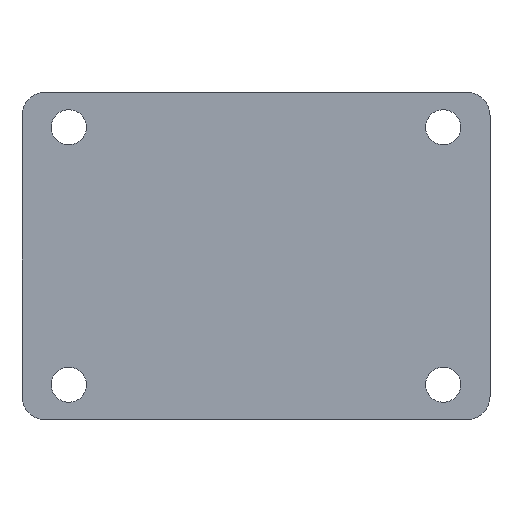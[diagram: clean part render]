
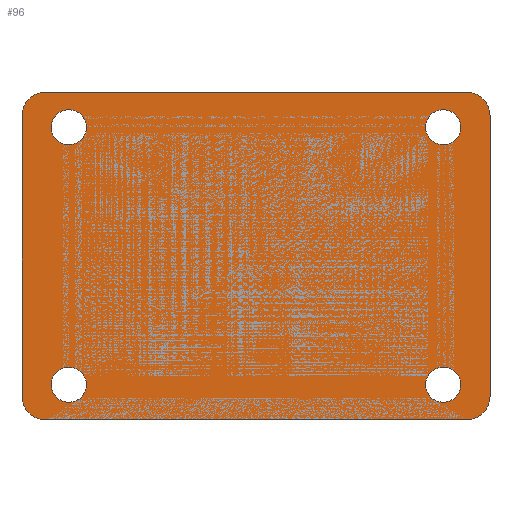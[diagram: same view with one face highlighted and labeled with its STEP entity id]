
A CAD part, top view. The second image highlights one B-rep face of the part: STEP entity #96.
In plain terms, the highlighted planar face has unit normal (0, 0, 1).
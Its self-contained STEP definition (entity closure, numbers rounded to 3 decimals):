
#56=FACE_BOUND('',#152,.T.);
#57=FACE_BOUND('',#153,.T.);
#58=FACE_BOUND('',#154,.T.);
#59=FACE_BOUND('',#155,.T.);
#60=FACE_BOUND('',#156,.T.);
#96=ADVANCED_FACE('',(#56,#57,#58,#59,#60),#124,.T.);
#124=PLANE('',#643);
#152=EDGE_LOOP('',(#216));
#153=EDGE_LOOP('',(#217));
#154=EDGE_LOOP('',(#218));
#155=EDGE_LOOP('',(#219));
#156=EDGE_LOOP('',(#220,#221,#222,#223,#224,#225,#226,#227));
#216=ORIENTED_EDGE('',*,*,#392,.T.);
#217=ORIENTED_EDGE('',*,*,#393,.T.);
#218=ORIENTED_EDGE('',*,*,#394,.T.);
#219=ORIENTED_EDGE('',*,*,#395,.T.);
#220=ORIENTED_EDGE('',*,*,#386,.T.);
#221=ORIENTED_EDGE('',*,*,#396,.T.);
#222=ORIENTED_EDGE('',*,*,#388,.T.);
#223=ORIENTED_EDGE('',*,*,#397,.T.);
#224=ORIENTED_EDGE('',*,*,#376,.T.);
#225=ORIENTED_EDGE('',*,*,#398,.T.);
#226=ORIENTED_EDGE('',*,*,#382,.T.);
#227=ORIENTED_EDGE('',*,*,#399,.T.);
#328=VERTEX_POINT('',#880);
#329=VERTEX_POINT('',#881);
#334=VERTEX_POINT('',#892);
#335=VERTEX_POINT('',#894);
#338=VERTEX_POINT('',#901);
#339=VERTEX_POINT('',#903);
#340=VERTEX_POINT('',#907);
#341=VERTEX_POINT('',#908);
#344=VERTEX_POINT('',#916);
#345=VERTEX_POINT('',#918);
#346=VERTEX_POINT('',#920);
#347=VERTEX_POINT('',#922);
#376=EDGE_CURVE('',#328,#329,#516,.T.);
#382=EDGE_CURVE('',#335,#334,#522,.T.);
#386=EDGE_CURVE('',#339,#338,#526,.T.);
#388=EDGE_CURVE('',#340,#341,#528,.T.);
#392=EDGE_CURVE('',#344,#344,#448,.T.);
#393=EDGE_CURVE('',#345,#345,#449,.T.);
#394=EDGE_CURVE('',#346,#346,#450,.T.);
#395=EDGE_CURVE('',#347,#347,#451,.T.);
#396=EDGE_CURVE('',#338,#340,#452,.T.);
#397=EDGE_CURVE('',#341,#328,#453,.T.);
#398=EDGE_CURVE('',#329,#335,#454,.T.);
#399=EDGE_CURVE('',#334,#339,#455,.T.);
#448=CIRCLE('',#635,1.5);
#449=CIRCLE('',#636,1.5);
#450=CIRCLE('',#637,1.5);
#451=CIRCLE('',#638,1.5);
#452=CIRCLE('',#639,2.);
#453=CIRCLE('',#640,2.);
#454=CIRCLE('',#641,2.);
#455=CIRCLE('',#642,2.);
#516=LINE('',#879,#552);
#522=LINE('',#893,#558);
#526=LINE('',#902,#562);
#528=LINE('',#906,#564);
#552=VECTOR('',#713,1.);
#558=VECTOR('',#721,1.);
#562=VECTOR('',#727,1.);
#564=VECTOR('',#731,1.);
#635=AXIS2_PLACEMENT_3D('',#915,#737,#738);
#636=AXIS2_PLACEMENT_3D('',#917,#739,#740);
#637=AXIS2_PLACEMENT_3D('',#919,#741,#742);
#638=AXIS2_PLACEMENT_3D('',#921,#743,#744);
#639=AXIS2_PLACEMENT_3D('',#923,#745,#746);
#640=AXIS2_PLACEMENT_3D('',#924,#747,#748);
#641=AXIS2_PLACEMENT_3D('',#925,#749,#750);
#642=AXIS2_PLACEMENT_3D('',#926,#751,#752);
#643=AXIS2_PLACEMENT_3D('',#927,#753,#754);
#713=DIRECTION('',(0.,-1.,0.));
#721=DIRECTION('',(1.,0.,0.));
#727=DIRECTION('',(0.,1.,0.));
#731=DIRECTION('',(-1.,0.,0.));
#737=DIRECTION('',(0.,0.,-1.));
#738=DIRECTION('',(-1.,0.,0.));
#739=DIRECTION('',(0.,0.,-1.));
#740=DIRECTION('',(-1.,0.,0.));
#741=DIRECTION('',(0.,0.,-1.));
#742=DIRECTION('',(-1.,0.,0.));
#743=DIRECTION('',(0.,0.,-1.));
#744=DIRECTION('',(-1.,0.,0.));
#745=DIRECTION('',(0.,0.,1.));
#746=DIRECTION('',(1.,0.,0.));
#747=DIRECTION('',(0.,0.,1.));
#748=DIRECTION('',(1.,0.,0.));
#749=DIRECTION('',(0.,0.,1.));
#750=DIRECTION('',(1.,0.,0.));
#751=DIRECTION('',(0.,0.,1.));
#752=DIRECTION('',(1.,0.,0.));
#753=DIRECTION('',(0.,0.,1.));
#754=DIRECTION('',(1.,0.,0.));
#879=CARTESIAN_POINT('',(-20.,14.,1.));
#880=CARTESIAN_POINT('',(-20.,12.,1.));
#881=CARTESIAN_POINT('',(-20.,-12.,1.));
#892=CARTESIAN_POINT('',(18.,-14.,1.));
#893=CARTESIAN_POINT('',(-20.,-14.,1.));
#894=CARTESIAN_POINT('',(-18.,-14.,1.));
#901=CARTESIAN_POINT('',(20.,12.,1.));
#902=CARTESIAN_POINT('',(20.,-14.,1.));
#903=CARTESIAN_POINT('',(20.,-12.,1.));
#906=CARTESIAN_POINT('',(20.,14.,1.));
#907=CARTESIAN_POINT('',(18.,14.,1.));
#908=CARTESIAN_POINT('',(-18.,14.,1.));
#915=CARTESIAN_POINT('',(16.,11.,1.));
#916=CARTESIAN_POINT('',(14.5,11.,1.));
#917=CARTESIAN_POINT('',(16.,-11.,1.));
#918=CARTESIAN_POINT('',(14.5,-11.,1.));
#919=CARTESIAN_POINT('',(-16.,11.,1.));
#920=CARTESIAN_POINT('',(-17.5,11.,1.));
#921=CARTESIAN_POINT('',(-16.,-11.,1.));
#922=CARTESIAN_POINT('',(-17.5,-11.,1.));
#923=CARTESIAN_POINT('',(18.,12.,1.));
#924=CARTESIAN_POINT('',(-18.,12.,1.));
#925=CARTESIAN_POINT('',(-18.,-12.,1.));
#926=CARTESIAN_POINT('',(18.,-12.,1.));
#927=CARTESIAN_POINT('',(0.,0.,1.));
